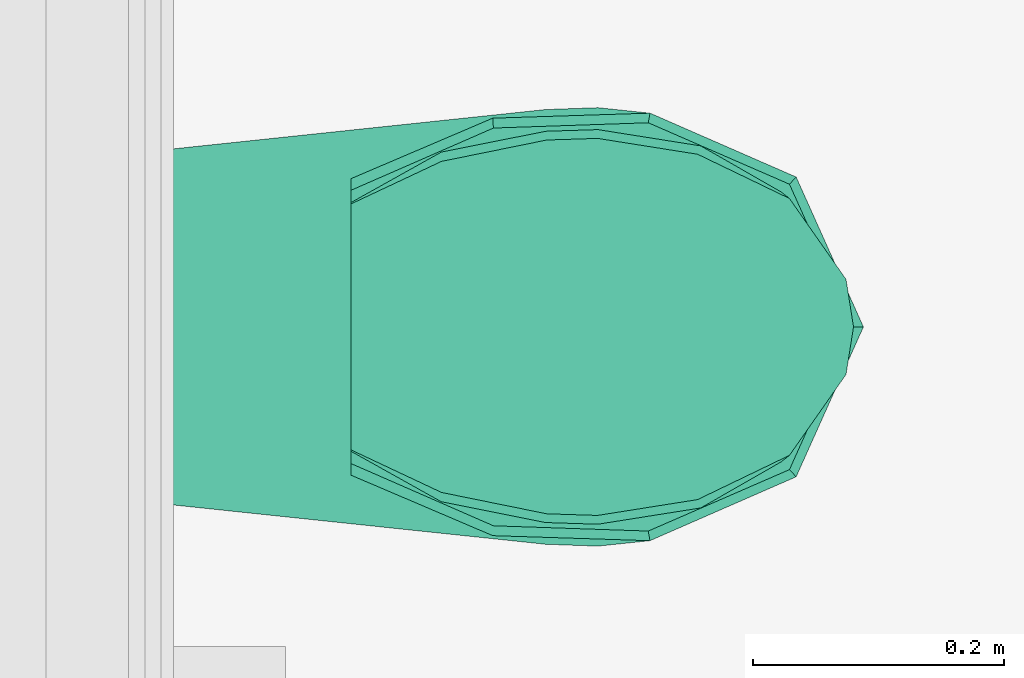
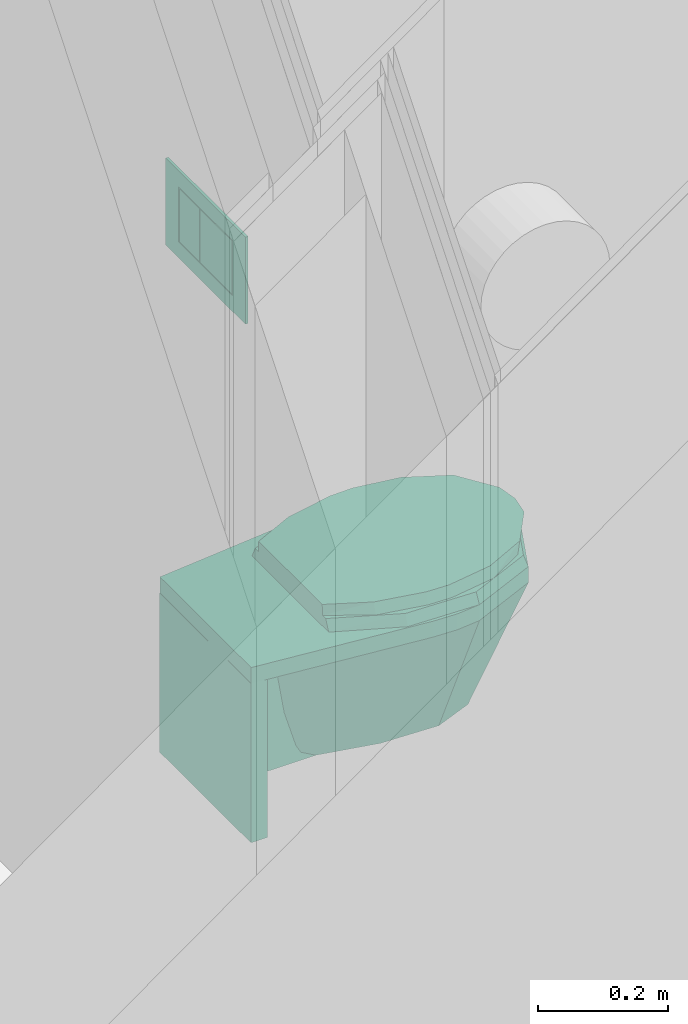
# One storey, part 246 of 301: 1 flow terminal.
"""IFC2X3 building model written with IfcOpenShell, lengths in millimetres."""

from ifc_helpers import new_model, entity, si_unit, converted_unit, derived_unit, money_unit, direction, frame, origin_with_axes, place, context, subcontext, project, spatial, faceted_brep, source, transform, mapped, type_object, element, save


model = new_model("IFC2X3")

# Units and contexts
model_context = context("Model", 3, precision=0.01, world=origin_with_axes(), true_north=direction((0.0, 1.0)))
body_context = subcontext(model_context, "Body", "Model", "MODEL_VIEW")
ifc_project = project(units=[si_unit("LENGTHUNIT", "METRE", prefix="MILLI"), si_unit("AREAUNIT", "SQUARE_METRE"), si_unit("VOLUMEUNIT", "CUBIC_METRE"), converted_unit("PLANEANGLEUNIT", "DEGREE", entity("IfcPlaneAngleMeasure", 0.0174532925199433), si_unit("PLANEANGLEUNIT", "RADIAN"), dimensions=[0, 0, 0, 0, 0, 0, 0]), money_unit("EUR"), converted_unit("TIMEUNIT", "Year", entity("IfcTimeMeasure", 31557600.0), si_unit("TIMEUNIT", "SECOND"), dimensions=[0, 0, 1, 0, 0, 0, 0]), si_unit("MASSUNIT", "GRAM", prefix="KILO"), si_unit("THERMODYNAMICTEMPERATUREUNIT", "DEGREE_CELSIUS"), si_unit("LUMINOUSINTENSITYUNIT", "LUMEN"), si_unit("ENERGYUNIT", "JOULE", prefix="MEGA"), derived_unit("THERMALCONDUCTANCEUNIT", [(si_unit("POWERUNIT", "WATT"), 1), (si_unit("LENGTHUNIT", "METRE"), -1), (si_unit("THERMODYNAMICTEMPERATUREUNIT", "KELVIN"), -1)]), derived_unit("SPECIFICHEATCAPACITYUNIT", [(si_unit("ENERGYUNIT", "JOULE"), 1), (si_unit("MASSUNIT", "GRAM", prefix="KILO"), -1), (si_unit("THERMODYNAMICTEMPERATUREUNIT", "KELVIN"), -1)]), derived_unit("MASSDENSITYUNIT", [(si_unit("MASSUNIT", "GRAM", prefix="KILO"), 1), (si_unit("VOLUMEUNIT", "CUBIC_METRE"), -1)])], contexts=[model_context])

# Site, building, storey
site_placement = place(None, frame((0.0, 0.0, 8650.0), z_axis=(0.0, 0.0, 1.0), x_axis=(1.0, 0.0, 0.0)))
site = spatial("IfcSite", under=ifc_project, at=site_placement, Name="43301:001:0844", CompositionType="ELEMENT")
building_placement = place(site_placement, origin_with_axes())
building = spatial("IfcBuilding", under=site, at=building_placement, Name="Kuressaare Ametikooli tuulikute mehaanikute õppekorpus", CompositionType="ELEMENT")
storey_placement = place(building_placement, origin_with_axes())
storey = spatial("IfcBuildingStorey", under=building, at=storey_placement, Name="1.korrus", CompositionType="ELEMENT", Elevation=0.0)

# Flow terminal
sanitary_terminal_type = type_object("IfcSanitaryTerminalType", Name="WC 27", PredefinedType="NOTDEFINED")
shared_shape = source(origin_with_axes(), body_context, "Body", "Brep", [
    faceted_brep([(141.0283315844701, -29.31865370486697, 69.99999999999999), (-141.0283315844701, -29.31865370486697, 69.99999999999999), (-141.0283315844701, 0.4949050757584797, 69.99999999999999), (141.0283315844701, 0.4949050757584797, 69.99999999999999), (141.0283315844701, -29.31865370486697, 370.0), (-141.0283315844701, -29.31865370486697, 370.0), (-141.0283315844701, 0.4949050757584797, 370.0), (141.0283315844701, 0.4949050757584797, 370.0)], [[[0, 1, 2, 3]], [[1, 0, 4, 5]], [[2, 1, 5, 6]], [[3, 2, 6, 7]], [[0, 3, 7, 4]], [[5, 4, 7, 6]]]),
    faceted_brep([(101.7881776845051, -122.4661491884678, 370.0), (48.96817068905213, -87.43521908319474, 370.0), (48.96817068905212, -29.31865370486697, 370.0), (-48.96817068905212, -29.31865370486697, 370.0), (-48.96817068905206, -87.43521908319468, 370.0), (-101.7881776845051, -122.4661491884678, 370.0), (-164.8111927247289, -257.295981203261, 370.0), (-170.4738719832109, -389.7973742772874, 370.0), (-119.554809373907, -506.3435444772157, 370.0), (0.0, -560.0, 370.0), (119.554809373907, -506.3435444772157, 370.0), (170.4738719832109, -389.7973742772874, 370.0), (164.8111927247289, -257.2969749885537, 370.0), (63.65862189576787, -201.5126978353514, 370.0), (110.2599674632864, -260.6221805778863, 370.0), (127.3172437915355, -341.3672356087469, 370.0), (110.2599674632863, -422.1122906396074, 370.0), (63.65862189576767, -481.2217733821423, 370.0), (0.0, -502.8573456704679, 370.0), (-63.65862189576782, -481.2217733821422, 370.0), (-110.2599674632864, -422.1122906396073, 370.0), (-127.3172437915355, -341.3672356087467, 370.0), (-110.2599674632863, -260.6221805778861, 370.0), (-63.65862189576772, -201.5126978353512, 370.0), (0.0, -179.8771255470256, 370.0), (48.96817068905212, -132.9294031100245, 150.8349994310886), (48.96817068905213, -168.852251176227, 120.0), (48.96817068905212, -29.31865370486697, 120.0), (-48.96817068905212, -29.31865370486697, 120.0), (-48.96817068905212, -132.9294031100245, 150.8349994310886), (-48.96817068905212, -111.9632571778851, 220.0911688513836), (-48.96817068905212, -168.852251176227, 120.0), (-48.96817068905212, -141.8100147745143, 135.0708656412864), (-70.97348723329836, -270.8651255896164, 120.0), (-74.94382651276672, -372.4786779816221, 120.0), (-47.75865687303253, -440.0938417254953, 120.0), (0.0, -461.5278029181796, 120.0), (47.75865687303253, -440.0938417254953, 120.0), (74.94382651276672, -372.4786779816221, 120.0), (70.97348723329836, -270.8651255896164, 120.0), (24.48408534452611, -287.5770287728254, 170.0), (42.4076797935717, -310.311445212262, 170.0), (48.96817068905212, -341.3672356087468, 170.0), (42.40767979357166, -372.4230260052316, 170.0), (24.48408534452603, -395.1574424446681, 170.0), (0.0, -403.4788164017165, 170.0), (-24.48408534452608, -395.1574424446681, 170.0), (-42.40767979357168, -372.4230260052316, 170.0), (-48.96817068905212, -341.3672356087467, 170.0), (-42.40767979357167, -310.3114452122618, 170.0), (-24.48408534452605, -287.5770287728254, 170.0), (0.0, -279.2556548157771, 170.0)], [[[0, 1, 2, 3, 4, 5, 6, 7, 8, 9, 10, 11, 12], [13, 14, 15, 16, 17, 18, 19, 20, 21, 22, 23, 24]], [[0, 25, 1]], [[1, 25, 26, 27, 2]], [[3, 2, 27, 28]], [[29, 30, 4, 3, 28, 31, 32]], [[5, 4, 30]], [[5, 29, 32, 6]], [[7, 6, 33]], [[8, 7, 34]], [[9, 8, 35]], [[10, 9, 36]], [[11, 10, 37]], [[12, 11, 38]], [[0, 12, 39]], [[14, 13, 40, 41]], [[15, 14, 41, 42]], [[16, 15, 42, 43]], [[17, 16, 43, 44]], [[18, 17, 44, 45]], [[19, 18, 45, 46]], [[20, 19, 46, 47]], [[21, 20, 47, 48]], [[22, 21, 48, 49]], [[23, 22, 49, 50]], [[24, 23, 50, 51]], [[13, 24, 51, 40]], [[39, 26, 25, 0]], [[33, 31, 28, 27, 26, 39, 38, 37, 36, 35, 34]], [[5, 30, 29]], [[6, 32, 31, 33]], [[34, 7, 33]], [[35, 8, 34]], [[36, 9, 35]], [[37, 10, 36]], [[38, 11, 37]], [[39, 12, 38]], [[40, 51, 50, 49, 48, 47, 46, 45, 44, 43, 42, 41]]]),
    faceted_brep([(-174.8222455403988, -348.2949128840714, 370.0), (-173.3473242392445, -306.5847503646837, 370.0), (-140.9734872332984, 0.0, 370.0), (140.975445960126, 0.0, 370.0), (173.3473242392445, -306.5847503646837, 370.0), (174.8222455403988, -348.2949128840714, 370.0), (170.4738719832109, -389.7973742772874, 370.0), (119.554809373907, -506.3435444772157, 370.0), (0.0, -560.0, 370.0), (-119.554809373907, -506.3435444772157, 370.0), (-170.4738719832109, -389.7973742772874, 370.0), (83.6883665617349, -472.7512164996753, 370.0), (119.3317103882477, -391.1688973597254, 370.0), (122.3755718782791, -362.1171743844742, 370.0), (121.3431269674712, -332.9200606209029, 370.0), (98.68281217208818, -201.7886999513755, 370.0), (-98.68144106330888, -201.7886999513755, 370.0), (-121.3431269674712, -332.9200606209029, 370.0), (-122.3755718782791, -362.1171743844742, 370.0), (-119.3317103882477, -391.1688973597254, 370.0), (-83.6883665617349, -472.7512164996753, 370.0), (0.0, -510.3107353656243, 370.0), (-173.3473242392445, -306.5847503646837, 400.0), (-174.8222455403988, -348.2949128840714, 400.0), (-140.9734872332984, 0.0, 400.0), (140.975445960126, 0.0, 400.0), (173.3473242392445, -306.5847503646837, 400.0), (174.8222455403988, -348.2949128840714, 400.0), (170.4738719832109, -389.7973742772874, 400.0), (119.554809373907, -506.3435444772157, 400.0), (0.0, -560.0, 400.0), (-119.554809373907, -506.3435444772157, 400.0), (-170.4738719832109, -389.7973742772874, 400.0), (83.6883665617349, -472.7512164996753, 400.0), (119.3317103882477, -391.1688973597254, 400.0), (122.3755718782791, -362.1171743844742, 400.0), (121.3431269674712, -332.9200606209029, 400.0), (98.68281217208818, -201.7886999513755, 400.0), (-98.68144106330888, -201.7886999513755, 400.0), (-121.3431269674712, -332.9200606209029, 400.0), (-122.3755718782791, -362.1171743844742, 400.0), (-119.3317103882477, -391.1688973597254, 400.0), (-83.6883665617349, -472.7512164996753, 400.0), (0.0, -510.3107353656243, 400.0)], [[[0, 1, 2, 3, 4, 5, 6, 7, 8, 9, 10], [11, 12, 13, 14, 15, 16, 17, 18, 19, 20, 21]], [[22, 1, 0, 23]], [[24, 2, 1, 22]], [[25, 3, 2, 24]], [[26, 4, 3, 25]], [[27, 5, 4, 26]], [[28, 6, 5, 27]], [[29, 7, 6, 28]], [[30, 8, 7, 29]], [[31, 9, 8, 30]], [[32, 10, 9, 31]], [[23, 0, 10, 32]], [[33, 34, 12, 11]], [[34, 35, 13, 12]], [[35, 36, 14, 13]], [[36, 37, 15, 14]], [[37, 38, 16, 15]], [[38, 39, 17, 16]], [[39, 40, 18, 17]], [[40, 41, 19, 18]], [[41, 42, 20, 19]], [[42, 43, 21, 20]], [[43, 33, 11, 21]], [[24, 22, 23, 32, 31, 30, 29, 28, 27, 26, 25], [37, 36, 35, 34, 33, 43, 42, 41, 40, 39, 38]]]),
    faceted_brep([(170.4738719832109, -389.7973742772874, 400.0), (119.554809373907, -506.3435444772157, 400.0), (0.0, -560.0, 400.0), (-119.554809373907, -506.3435444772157, 400.0), (-170.4738719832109, -389.7973742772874, 400.0), (-166.4663168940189, -264.4263906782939, 400.0), (-118.2121021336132, -151.3163525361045, 400.0), (118.2121021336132, -151.3163525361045, 400.0), (166.4663168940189, -264.4263906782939, 400.0), (87.07689659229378, -411.9963613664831, 400.0), (94.51085540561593, -382.2763031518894, 400.0), (97.71606496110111, -351.7983255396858, 400.0), (96.61425296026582, -320.7429308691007, 400.0), (90.99294096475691, -286.7942733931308, 400.0), (81.32886310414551, -253.3381075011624, 400.0), (68.75448552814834, -223.4663237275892, 400.0), (-68.75412876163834, -223.4663237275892, 400.0), (-81.3289539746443, -253.3384220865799, 400.0), (-90.99294096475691, -286.7942733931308, 400.0), (-96.61425296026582, -320.7429308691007, 400.0), (-97.71606496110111, -351.7983255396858, 400.0), (-94.51085540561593, -382.2763031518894, 400.0), (-87.07689659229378, -411.9963613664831, 400.0), (-76.4888004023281, -438.0775703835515, 400.0), (-62.06856874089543, -459.4262123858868, 400.0), (-44.26109835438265, -474.4067566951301, 400.0), (-23.02579943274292, -483.9023013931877, 400.0), (0.0, -487.1544663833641, 400.0), (23.02579943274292, -483.9023013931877, 400.0), (44.26109835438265, -474.4067566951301, 400.0), (62.06856874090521, -459.4262123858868, 400.0), (76.4888004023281, -438.0775703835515, 400.0), (162.8034977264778, -388.4070686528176, 420.0000000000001), (113.7912556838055, -501.0248055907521, 420.0000000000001), (0.0, -552.0944379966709, 420.0000000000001), (-113.7912556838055, -501.0248055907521, 420.0000000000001), (-162.8034977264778, -388.4070686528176, 420.0000000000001), (-158.5902763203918, -264.9332211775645, 420.0000000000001), (-108.940468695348, -151.3163525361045, 420.0000000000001), (108.940468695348, -151.3163525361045, 420.0000000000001), (158.5902763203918, -264.9332211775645, 420.0000000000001), (87.07689659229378, -411.9963613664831, 420.0000000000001), (94.51085540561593, -382.2763031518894, 420.0000000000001), (97.71606496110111, -351.7983255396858, 420.0000000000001), (96.61425296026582, -320.7429308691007, 420.0000000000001), (90.99294096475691, -286.7942733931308, 420.0000000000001), (81.32886310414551, -253.3381075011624, 420.0000000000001), (68.75448552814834, -223.4663237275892, 420.0000000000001), (-68.75412876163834, -223.4663237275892, 420.0000000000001), (-81.3289539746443, -253.3384220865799, 420.0000000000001), (-90.99294096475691, -286.7942733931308, 420.0000000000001), (-96.61425296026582, -320.7429308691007, 420.0000000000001), (-97.71606496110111, -351.7983255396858, 420.0000000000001), (-94.51085540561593, -382.2763031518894, 420.0000000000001), (-87.07689659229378, -411.9963613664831, 420.0000000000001), (-76.4888004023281, -438.0775703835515, 420.0000000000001), (-62.06856874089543, -459.4262123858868, 420.0000000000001), (-44.26109835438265, -474.4067566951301, 420.0000000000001), (-23.02579943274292, -483.9023013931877, 420.0000000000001), (0.0, -487.1544663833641, 420.0000000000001), (23.02579943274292, -483.9023013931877, 420.0000000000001), (44.26109835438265, -474.4067566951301, 420.0000000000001), (62.06856874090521, -459.4262123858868, 420.0000000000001), (76.4888004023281, -438.0775703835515, 420.0000000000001)], [[[0, 1, 2, 3, 4, 5, 6, 7, 8], [9, 10, 11, 12, 13, 14, 15, 16, 17, 18, 19, 20, 21, 22, 23, 24, 25, 26, 27, 28, 29, 30, 31]], [[1, 0, 32]], [[2, 1, 33]], [[3, 2, 34]], [[4, 3, 35]], [[5, 4, 36]], [[6, 5, 37]], [[6, 38, 39, 7]], [[8, 7, 39]], [[0, 8, 40]], [[41, 42, 10, 9]], [[42, 43, 11, 10]], [[43, 44, 12, 11]], [[44, 45, 13, 12]], [[45, 46, 14, 13]], [[46, 47, 15, 14]], [[47, 48, 16, 15]], [[48, 49, 17, 16]], [[49, 50, 18, 17]], [[50, 51, 19, 18]], [[51, 52, 20, 19]], [[52, 53, 21, 20]], [[53, 54, 22, 21]], [[54, 55, 23, 22]], [[55, 56, 24, 23]], [[56, 57, 25, 24]], [[57, 58, 26, 25]], [[58, 59, 27, 26]], [[59, 60, 28, 27]], [[60, 61, 29, 28]], [[61, 62, 30, 29]], [[62, 63, 31, 30]], [[63, 41, 9, 31]], [[0, 40, 32]], [[1, 32, 33]], [[2, 33, 34]], [[3, 34, 35]], [[4, 35, 36]], [[5, 36, 37]], [[6, 37, 38]], [[38, 37, 36, 35, 34, 33, 32, 40, 39], [45, 44, 43, 42, 41, 63, 62, 61, 60, 59, 58, 57, 56, 55, 54, 53, 52, 51, 50, 49, 48, 47, 46]], [[8, 39, 40]]]),
    faceted_brep([(-107.5993284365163, -494.4181209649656, 420.0000000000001), (-39.85813221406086, -538.8154789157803, 420.0000000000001), (-37.93662119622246, -546.1188070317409, 440.0000000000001), (-144.3504302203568, -430.2603362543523, 420.0000000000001), (-157.3400209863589, -348.2949128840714, 420.0000000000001), (-156.01259181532, -306.5847503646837, 420.0000000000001), (-139.3844700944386, -223.3443004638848, 420.0000000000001), (-99.17339219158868, -151.3163525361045, 420.0000000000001), (99.17339219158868, -151.3163525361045, 420.0000000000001), (139.3844700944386, -223.3443004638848, 420.0000000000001), (156.01259181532, -306.5847503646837, 420.0000000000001), (157.3400209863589, -348.2949128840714, 420.0000000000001), (144.3513116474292, -430.2603362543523, 420.0000000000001), (107.5993284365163, -494.4181209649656, 420.0000000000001), (39.85813221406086, -538.8154789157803, 420.0000000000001), (0.0, -545.0932206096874, 420.0000000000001), (0.0, -552.0944379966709, 440.0000000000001), (-102.412130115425, -501.0248055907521, 440.0000000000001), (-137.6912486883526, -427.7848170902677, 440.0000000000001), (-150.3317943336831, -348.0176467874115, 440.0000000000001), (-149.0405036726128, -307.4274802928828, 440.0000000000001), (-132.0192654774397, -223.5758524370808, 440.0000000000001), (-98.04642182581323, -151.3163525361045, 440.0000000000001), (98.04642182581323, -151.3163525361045, 440.0000000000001), (132.0192654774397, -223.5758524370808, 440.0000000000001), (149.0405036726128, -307.4274802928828, 440.0000000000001), (150.3317943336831, -348.0176467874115, 440.0000000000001), (137.6912486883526, -427.7848170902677, 440.0000000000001), (102.412130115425, -501.0248055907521, 440.0000000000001), (37.93662119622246, -546.1188070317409, 440.0000000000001)], [[[0, 1, 2]], [[0, 3, 4, 5, 6, 7, 8, 9, 10, 11, 12, 13, 14, 15, 1]], [[1, 16, 2]], [[0, 2, 17]], [[3, 0, 17]], [[4, 3, 18]], [[5, 4, 19]], [[6, 5, 20]], [[7, 6, 21]], [[8, 7, 22, 23]], [[9, 8, 23]], [[10, 9, 24]], [[11, 10, 25]], [[12, 11, 26]], [[13, 12, 27]], [[14, 13, 28]], [[15, 14, 29]], [[1, 15, 16]], [[17, 2, 16, 29, 28, 27, 26, 25, 24, 23, 22, 21, 20, 19, 18]], [[3, 17, 18]], [[4, 18, 19]], [[5, 19, 20]], [[6, 20, 21]], [[7, 21, 22]], [[9, 23, 24]], [[10, 24, 25]], [[11, 25, 26]], [[12, 26, 27]], [[13, 27, 28]], [[14, 28, 29]], [[15, 29, 16]]]),
    faceted_brep([(-83.0, 0.0, 1036.0), (-83.0, 0.0, 1170.0), (-83.0, -4.999999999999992, 1170.0), (-83.0, -5.0, 1036.0), (-123.0, 0.0, 1036.0), (-123.0, 0.0, 1200.0), (123.0, 0.0, 1200.0), (123.0, 0.0, 1036.0), (83.0, 0.0, 1036.0), (83.0, 0.0, 1170.0), (83.0, -4.999999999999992, 1170.0), (83.0, -5.0, 1036.0), (123.0, -5.0, 1036.0), (123.0, -4.999999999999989, 1200.0), (-123.0, -4.999999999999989, 1200.0), (-123.0, -5.0, 1036.0)], [[[0, 1, 2, 3]], [[0, 4, 5, 6, 7, 8, 9, 1]], [[1, 9, 10, 2]], [[3, 2, 10, 11, 12, 13, 14, 15]], [[4, 0, 3, 15]], [[5, 4, 15, 14]], [[6, 5, 14, 13]], [[7, 6, 13, 12]], [[8, 7, 12, 11]], [[9, 8, 11, 10]]]),
    faceted_brep([(83.0, 0.0, 1036.0), (83.0, 0.0, 1066.0), (83.0, -4.999999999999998, 1066.0), (83.0, -5.0, 1036.0), (-83.0, 0.0, 1036.0), (-83.0, 0.0, 1066.0), (-83.0, -4.999999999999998, 1066.0), (-83.0, -5.0, 1036.0)], [[[0, 1, 2, 3]], [[0, 4, 5, 1]], [[1, 5, 6, 2]], [[3, 2, 6, 7]], [[4, 0, 3, 7]], [[5, 4, 7, 6]]]),
    faceted_brep([(-81.0, 0.0, 1068.0), (17.0, 0.0, 1068.0), (17.0, -4.999999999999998, 1068.0), (-81.0, -4.999999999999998, 1068.0), (-81.0, 0.0, 1168.0), (17.0, 0.0, 1168.0), (17.0, -4.999999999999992, 1168.0), (-81.0, -4.999999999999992, 1168.0)], [[[0, 1, 2, 3]], [[0, 4, 5, 1]], [[1, 5, 6, 2]], [[3, 2, 6, 7]], [[4, 0, 3, 7]], [[5, 4, 7, 6]]]),
    faceted_brep([(19.0, 0.0, 1168.0), (19.0, 0.0, 1068.0), (19.0, -4.999999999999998, 1068.0), (19.0, -4.999999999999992, 1168.0), (81.0, 0.0, 1168.0), (81.0, 0.0, 1068.0), (81.0, -4.999999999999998, 1068.0), (81.0, -4.999999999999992, 1168.0)], [[[0, 1, 2, 3]], [[0, 4, 5, 1]], [[1, 5, 6, 2]], [[3, 2, 6, 7]], [[4, 0, 3, 7]], [[5, 4, 7, 6]]]),
])
flow_terminal_placement = place(storey_placement, frame((117075.2608368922, 18649.83634097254, 0.0), z_axis=(0.0, 0.0, 1.0), x_axis=(-6.698636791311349e-07, 0.9999999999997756, 0.0)))
element("IfcFlowTerminal", 1, at=flow_terminal_placement, inside=storey, type_object=sanitary_terminal_type, Name="WC1", context=body_context, shape_type="MappedRepresentation", body=[
    mapped(shared_shape, transform((0.0, 0.0, 0.0))),
])

save(model, "model.ifc")
